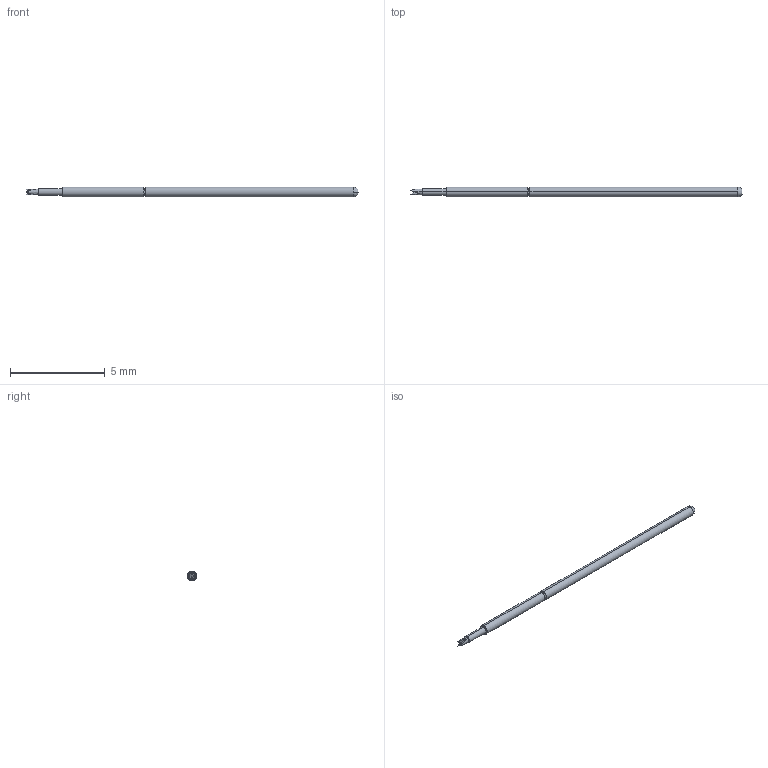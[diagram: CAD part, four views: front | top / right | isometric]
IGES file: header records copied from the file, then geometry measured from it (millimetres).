
Start section: SolidWorks IGES file using analytic representation for surfaces
Global section: file name: Z:\probe solid model mockups\Solidworks models\MEP-30 IGS files\MEP-30U.IGS; native system: SolidWorks 2006 by SolidWorks Corporation; preprocessor: SolidWorks 2006 by SolidWorks Corporation; author: tsakatani; date: 071219.101532; units: inch
Bounding box: 17.53 x 0.51 x 0.51 mm (x, y, z)
Surface area: 27.2 mm2 (no closed solid volume)
Topology: 0 solids, 0 shells, 24 faces, 162 edges, 162 vertices
Faces by surface type: bspline 12, revolution 12
